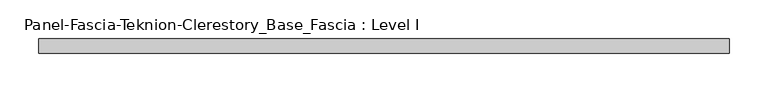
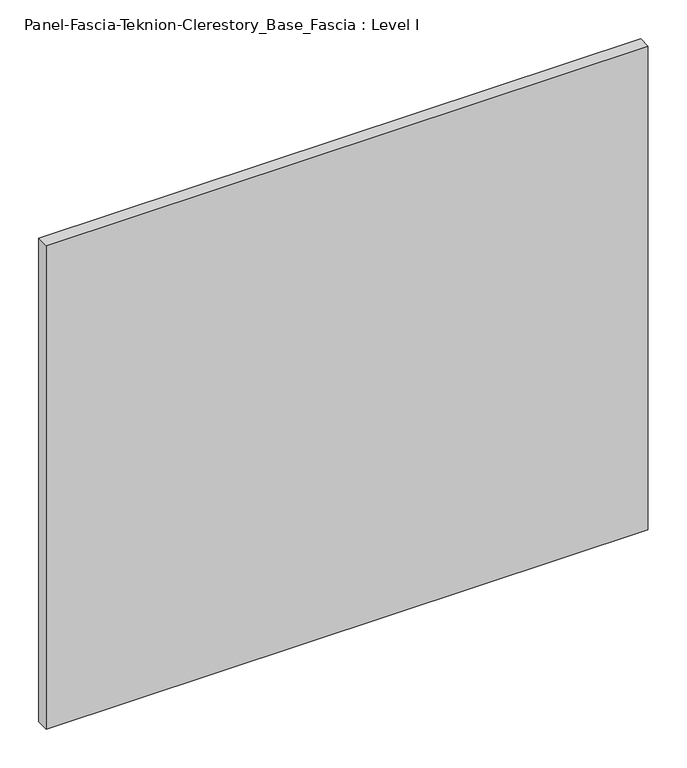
"""IFC4 building model written with IfcOpenShell, lengths in millimetres: proxy geometry, Panel-Fascia-Teknion-Clerestory_Base_Fascia : Level I."""

from ifc_helpers import new_model, si_unit, frame, origin, place, context, project, spatial, polyline, outline, extrude, source, transform, mapped, element, save


def panel_fascia_teknion_clerestory_base_fascia_level_i_735a874c(model_context):
    return source(origin(), model_context, "Body", "SweptSolid", [
        extrude(outline(polyline([(447.6198344, 9.525), (447.6198344, -9.525), (-447.6198344, -9.525), (-447.6198344, 9.525), (447.6198344, 9.525)])), frame((0.0, 0.0, 3.175), z_axis=(0.0, 0.0, 1.0), x_axis=(1.0, 0.0, 0.0)), (0.0, 0.0, 1.0), 759.968),
    ])


if __name__ == "__main__":
    model = new_model("IFC4")
    model_context = context("Model", 3, world=origin())
    ifc_project = project(units=[si_unit("LENGTHUNIT", "METRE", prefix="MILLI")], contexts=[model_context])
    site = spatial("IfcSite", under=ifc_project)
    building = spatial("IfcBuilding", under=site)
    placement = place(None, origin())
    panel_fascia_teknion_clerestory_base_fascia_level_i_shape = panel_fascia_teknion_clerestory_base_fascia_level_i_735a874c(model_context)
    element("IfcBuildingElementProxy", 1, Name="Panel-Fascia-Teknion-Clerestory_Base_Fascia : Level I", ObjectType="Panel-Fascia-Teknion-Clerestory_Base_Fascia : Level I", at=placement, inside=building, context=model_context, shape_type="MappedRepresentation", body=[
        mapped(panel_fascia_teknion_clerestory_base_fascia_level_i_shape, transform((0.0, 0.0, 0.0), x_axis=(1.0, 0.0, 0.0), y_axis=(0.0, 1.0, 0.0), z_axis=(0.0, 0.0, 1.0))),
    ])
    save(model, "model.ifc")
